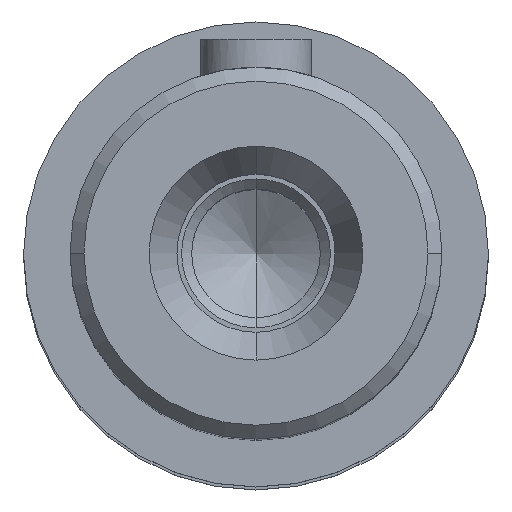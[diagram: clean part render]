
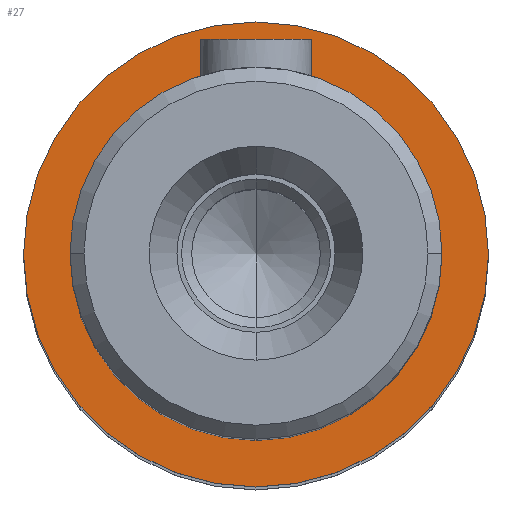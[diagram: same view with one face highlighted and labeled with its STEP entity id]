
A CAD part, top view. The second image highlights one B-rep face of the part: STEP entity #27.
In plain terms, the highlighted planar face has unit normal (0, 0, 1) as drawn and (1, 0, 0) by its records, which use the part's own axes.
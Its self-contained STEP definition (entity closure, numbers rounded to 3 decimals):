
#27=ADVANCED_FACE('',(#68,#56),#497,.T.);
#56=FACE_BOUND('',#107,.T.);
#68=FACE_OUTER_BOUND('',#106,.T.);
#106=EDGE_LOOP('',(#172,#173));
#107=EDGE_LOOP('',(#174,#175));
#172=ORIENTED_EDGE('',*,*,#324,.F.);
#173=ORIENTED_EDGE('',*,*,#285,.F.);
#174=ORIENTED_EDGE('',*,*,#313,.F.);
#175=ORIENTED_EDGE('',*,*,#274,.F.);
#274=EDGE_CURVE('',#447,#470,#338,.T.);
#285=EDGE_CURVE('',#455,#478,#345,.T.);
#313=EDGE_CURVE('',#470,#447,#359,.T.);
#324=EDGE_CURVE('',#478,#455,#366,.T.);
#338=TRIMMED_CURVE($,#374,(#1040),(#1041),.T.,.CARTESIAN.);
#345=TRIMMED_CURVE($,#381,(#1069),(#1070),.T.,.CARTESIAN.);
#359=TRIMMED_CURVE($,#395,(#1139),(#1140),.T.,.CARTESIAN.);
#366=TRIMMED_CURVE($,#402,(#1168),(#1169),.T.,.CARTESIAN.);
#374=CIRCLE('',#722,20.);
#381=CIRCLE('',#729,25.);
#395=CIRCLE('',#743,20.);
#402=CIRCLE('',#750,25.);
#447=VERTEX_POINT('',#979);
#455=VERTEX_POINT('',#987);
#470=VERTEX_POINT('',#1002);
#478=VERTEX_POINT('',#1010);
#497=PLANE('',#705);
#705=AXIS2_PLACEMENT_3D('',#877,#773,$);
#722=AXIS2_PLACEMENT_3D($,#1039,#790,#791);
#729=AXIS2_PLACEMENT_3D($,#1068,#804,#805);
#743=AXIS2_PLACEMENT_3D($,#1138,#832,#833);
#750=AXIS2_PLACEMENT_3D($,#1167,#846,#847);
#773=DIRECTION('',(1.,0.,0.));
#790=DIRECTION('',(1.,0.,0.));
#791=DIRECTION('',(0.,0.,-1.));
#804=DIRECTION('',(-1.,0.,0.));
#805=DIRECTION('',(0.,0.,-1.));
#832=DIRECTION('',(1.,0.,0.));
#833=DIRECTION('',(0.,0.,1.));
#846=DIRECTION('',(-1.,0.,0.));
#847=DIRECTION('',(0.,0.,1.));
#877=CARTESIAN_POINT('',(94.25,-30.06,-30.06));
#979=CARTESIAN_POINT('',(94.25,0.,-20.));
#987=CARTESIAN_POINT('',(94.25,0.,-25.));
#1002=CARTESIAN_POINT('',(94.25,0.,20.));
#1010=CARTESIAN_POINT('',(94.25,0.,25.));
#1039=CARTESIAN_POINT('',(94.25,0.,0.));
#1040=CARTESIAN_POINT('',(94.25,0.,-20.));
#1041=CARTESIAN_POINT('',(94.25,0.,20.));
#1068=CARTESIAN_POINT('',(94.25,0.,0.));
#1069=CARTESIAN_POINT('',(94.25,0.,-25.));
#1070=CARTESIAN_POINT('',(94.25,0.,25.));
#1138=CARTESIAN_POINT('',(94.25,0.,0.));
#1139=CARTESIAN_POINT('',(94.25,0.,20.));
#1140=CARTESIAN_POINT('',(94.25,0.,-20.));
#1167=CARTESIAN_POINT('',(94.25,0.,0.));
#1168=CARTESIAN_POINT('',(94.25,0.,25.));
#1169=CARTESIAN_POINT('',(94.25,0.,-25.));
